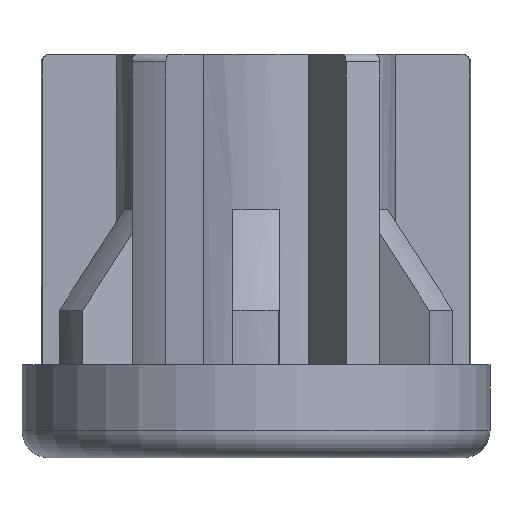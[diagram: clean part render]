
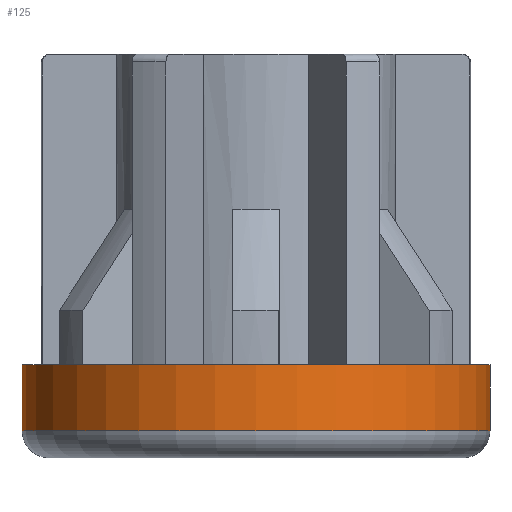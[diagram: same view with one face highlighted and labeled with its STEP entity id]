
A CAD part, front view. The second image highlights one B-rep face of the part: STEP entity #125.
In plain terms, the highlighted cylindrical face has radius 30.15 mm (diameter 60.3 mm), a partial arc.
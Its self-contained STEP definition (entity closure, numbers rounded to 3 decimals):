
#61 = DIRECTION ( 'NONE',  ( 0., 0., -1. ) ) ;
#125 = ADVANCED_FACE ( 'NONE', ( #199 ), #2318, .T. ) ;
#171 = AXIS2_PLACEMENT_3D ( 'NONE', #1704, #1038, #2056 ) ;
#199 = FACE_OUTER_BOUND ( 'NONE', #4218, .T. ) ;
#324 = DIRECTION ( 'NONE',  ( 0., 0., -1. ) ) ;
#529 = VERTEX_POINT ( 'NONE', #1250 ) ;
#853 = ORIENTED_EDGE ( 'NONE', *, *, #4377, .F. ) ;
#887 = ORIENTED_EDGE ( 'NONE', *, *, #3308, .T. ) ;
#987 = DIRECTION ( 'NONE',  ( -1., 0., 0. ) ) ;
#1038 = DIRECTION ( 'NONE',  ( 0., 0., -1. ) ) ;
#1117 = VECTOR ( 'NONE', #3320, 1000. ) ;
#1250 = CARTESIAN_POINT ( 'NONE',  ( 30.058, 0.005, -8.5 ) ) ;
#1312 = EDGE_CURVE ( 'NONE', #529, #1380, #2835, .T. ) ;
#1322 = DIRECTION ( 'NONE',  ( 0., 0., 1. ) ) ;
#1380 = VERTEX_POINT ( 'NONE', #3462 ) ;
#1386 = DIRECTION ( 'NONE',  ( -1., 0., 0. ) ) ;
#1682 = CARTESIAN_POINT ( 'NONE',  ( -0.092, 0.005, 0. ) ) ;
#1704 = CARTESIAN_POINT ( 'NONE',  ( -0.092, 0.005, -8.5 ) ) ;
#1904 = LINE ( 'NONE', #4330, #1117 ) ;
#2056 = DIRECTION ( 'NONE',  ( -1., 0., 0. ) ) ;
#2096 = CARTESIAN_POINT ( 'NONE',  ( -0.092, 0.005, 0. ) ) ;
#2249 = CARTESIAN_POINT ( 'NONE',  ( -30.242, 0.005, 0. ) ) ;
#2318 = CYLINDRICAL_SURFACE ( 'NONE', #2614, 30.15 ) ;
#2590 = AXIS2_PLACEMENT_3D ( 'NONE', #2096, #61, #1386 ) ;
#2614 = AXIS2_PLACEMENT_3D ( 'NONE', #1682, #324, #987 ) ;
#2650 = CARTESIAN_POINT ( 'NONE',  ( 30.058, 0.005, 0. ) ) ;
#2662 = CARTESIAN_POINT ( 'NONE',  ( -30.242, 0.005, 0. ) ) ;
#2670 = LINE ( 'NONE', #2662, #3434 ) ;
#2835 = CIRCLE ( 'NONE', #171, 30.15 ) ;
#2947 = ORIENTED_EDGE ( 'NONE', *, *, #1312, .F. ) ;
#3083 = ORIENTED_EDGE ( 'NONE', *, *, #3477, .F. ) ;
#3176 = VERTEX_POINT ( 'NONE', #2249 ) ;
#3308 = EDGE_CURVE ( 'NONE', #4163, #3176, #4305, .T. ) ;
#3320 = DIRECTION ( 'NONE',  ( 0., 0., -1. ) ) ;
#3434 = VECTOR ( 'NONE', #1322, 1000. ) ;
#3462 = CARTESIAN_POINT ( 'NONE',  ( -30.242, 0.005, -8.5 ) ) ;
#3477 = EDGE_CURVE ( 'NONE', #4163, #529, #1904, .T. ) ;
#4163 = VERTEX_POINT ( 'NONE', #2650 ) ;
#4218 = EDGE_LOOP ( 'NONE', ( #853, #2947, #3083, #887 ) ) ;
#4305 = CIRCLE ( 'NONE', #2590, 30.15 ) ;
#4330 = CARTESIAN_POINT ( 'NONE',  ( 30.058, 0.005, 0. ) ) ;
#4377 = EDGE_CURVE ( 'NONE', #1380, #3176, #2670, .T. ) ;
